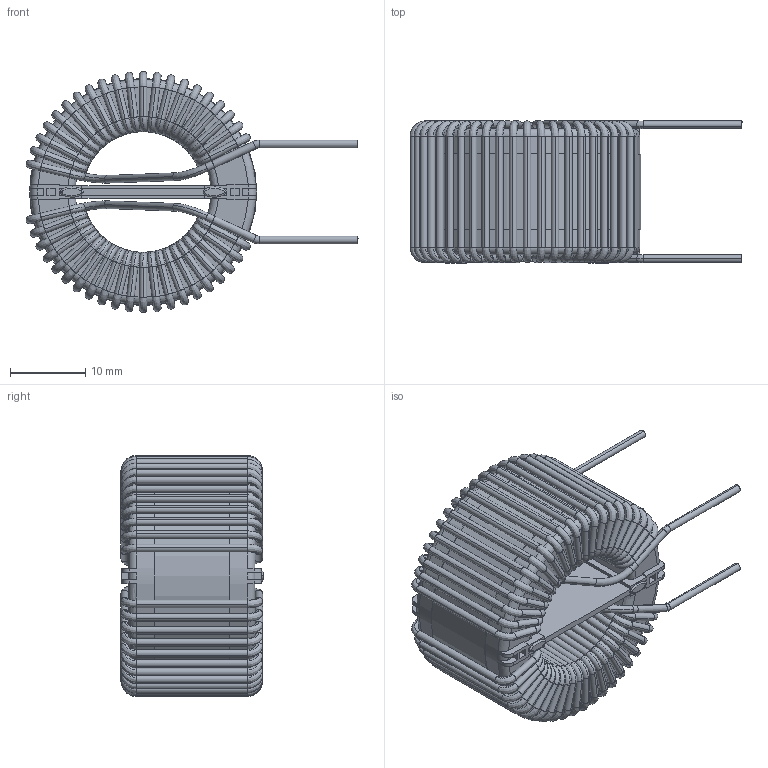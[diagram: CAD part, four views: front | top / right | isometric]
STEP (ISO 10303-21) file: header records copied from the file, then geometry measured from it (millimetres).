
FILE_DESCRIPTION (( 'STEP AP203' ), '1' );
FILE_NAME ('HN-V-303U-7A.STEP', '2020-06-30T13:33:51', ( 'Windows User' ), ( '' ), 'SwSTEP 2.0', 'SolidWorks 2015', '' );
FILE_SCHEMA (( 'CONFIG_CONTROL_DESIGN' ));
Length unit declared in the file: inch
Products named in the file (4): HN-V-303U-7A - COIL; HN-V-303U-7A; HN-V-303U-7A - CORE; HN-V-303U-7A - FRAME
Assembly tree (3 placements, depth 2):
  HN-V-303U-7A
    HN-V-303U-7A - CORE
    HN-V-303U-7A - COIL
    HN-V-303U-7A - FRAME
Bounding box: 43.98 x 18.84 x 31.93 mm (x, y, z)
Volume: 9638.8 mm3; surface area: 13126 mm2
Topology: 13 solids, 13 shells, 1003 faces, 2907 edges, 1932 vertices
Faces by surface type: cylinder 447, bspline 220, torus 204, plane 132
Entity records: 49743 total; most frequent: CARTESIAN_POINT 23152, ORIENTED_EDGE 5814, DIRECTION 5649, EDGE_CURVE 2907, AXIS2_PLACEMENT_3D 2437, VERTEX_POINT 1932, CIRCLE 1648, EDGE_LOOP 1009
